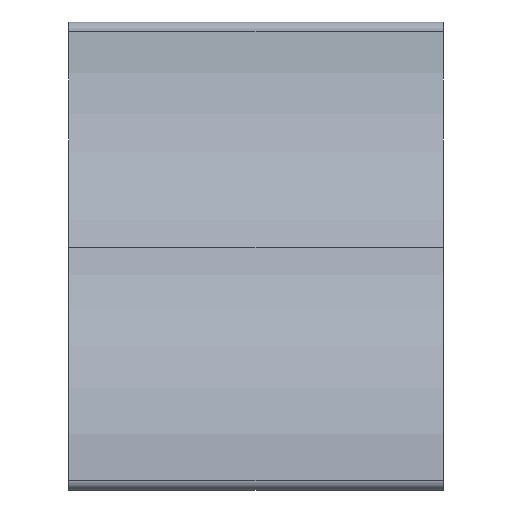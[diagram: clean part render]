
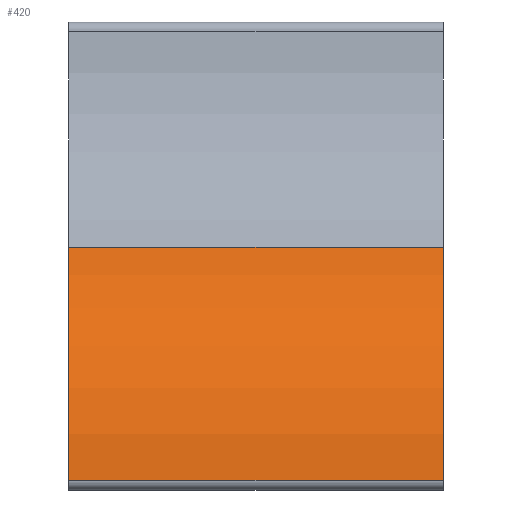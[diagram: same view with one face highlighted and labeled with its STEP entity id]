
A CAD part, front view. The second image highlights one B-rep face of the part: STEP entity #420.
In plain terms, the highlighted cylindrical face has radius 30 mm (diameter 60 mm), a partial arc.
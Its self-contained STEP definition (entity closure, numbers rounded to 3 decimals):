
#222 = EDGE_CURVE( '', #376, #370, #525, .T. );
#238 = VERTEX_POINT( '', #542 );
#294 = VERTEX_POINT( '', #602 );
#344 = EDGE_CURVE( '', #238, #376, #657, .T. );
#356 = EDGE_CURVE( '', #294, #370, #670, .T. );
#370 = VERTEX_POINT( '', #685 );
#376 = VERTEX_POINT( '', #691 );
#404 = EDGE_CURVE( '', #294, #238, #722, .T. );
#420 = ADVANCED_FACE( '', ( #741 ), #742, .T. );
#525 = CIRCLE( '', #861, 30. );
#542 = CARTESIAN_POINT( '', ( -4., -29.982, -28.966 ) );
#602 = CARTESIAN_POINT( '', ( -4., -15.116, -4.087 ) );
#657 = LINE( '', #1034, #1035 );
#670 = LINE( '', #1055, #1056 );
#685 = CARTESIAN_POINT( '', ( 36., -15.116, -4.087 ) );
#691 = CARTESIAN_POINT( '', ( 36., -29.982, -28.966 ) );
#722 = CIRCLE( '', #1124, 30. );
#741 = FACE_OUTER_BOUND( '', #1149, .T. );
#742 = CYLINDRICAL_SURFACE( '', #1150, 30. );
#861 = AXIS2_PLACEMENT_3D( '', #1271, #1272, #1273 );
#1034 = CARTESIAN_POINT( '', ( -4., -29.982, -28.966 ) );
#1035 = VECTOR( '', #1410, 1. );
#1055 = CARTESIAN_POINT( '', ( -4., -15.116, -4.087 ) );
#1056 = VECTOR( '', #1427, 1. );
#1124 = AXIS2_PLACEMENT_3D( '', #1483, #1484, #1485 );
#1149 = EDGE_LOOP( '', ( #1519, #1520, #1521, #1522 ) );
#1150 = AXIS2_PLACEMENT_3D( '', #1523, #1524, #1525 );
#1271 = CARTESIAN_POINT( '', ( 36., 0., -30. ) );
#1272 = DIRECTION( '', ( -1., 0., 0. ) );
#1273 = DIRECTION( '', ( 0., -0.504, 0.864 ) );
#1410 = DIRECTION( '', ( 1., 0., 0. ) );
#1427 = DIRECTION( '', ( 1., 0., 0. ) );
#1483 = CARTESIAN_POINT( '', ( -4., 0., -30. ) );
#1484 = DIRECTION( '', ( 1., 0., 0. ) );
#1485 = DIRECTION( '', ( 0., -0.504, 0.864 ) );
#1519 = ORIENTED_EDGE( '', *, *, #222, .T. );
#1520 = ORIENTED_EDGE( '', *, *, #356, .F. );
#1521 = ORIENTED_EDGE( '', *, *, #404, .T. );
#1522 = ORIENTED_EDGE( '', *, *, #344, .T. );
#1523 = CARTESIAN_POINT( '', ( -4., 0., -30. ) );
#1524 = DIRECTION( '', ( -1., 0., 0. ) );
#1525 = DIRECTION( '', ( 0., -0.504, 0.864 ) );
